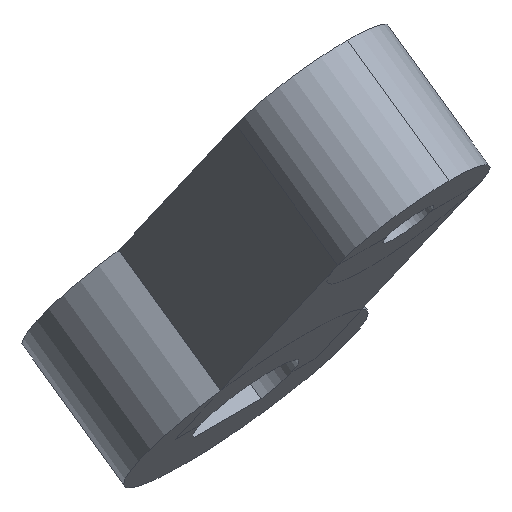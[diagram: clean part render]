
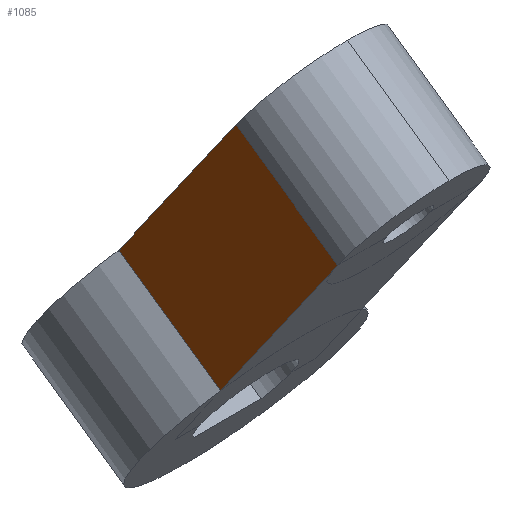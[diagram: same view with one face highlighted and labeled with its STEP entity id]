
A CAD part, isometric view. The second image highlights one B-rep face of the part: STEP entity #1085.
In plain terms, the highlighted planar face has unit normal (-1, 0, 0).
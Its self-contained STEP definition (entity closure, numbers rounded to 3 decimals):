
#24 = VERTEX_POINT('',#25);
#25 = CARTESIAN_POINT('',(411.4,-6.197,-1.61));
#77 = PLANE('',#78);
#78 = AXIS2_PLACEMENT_3D('',#79,#80,#81);
#79 = CARTESIAN_POINT('',(411.4,-4.915,-3.441));
#80 = DIRECTION('',(-0.,-0.819,-0.574));
#81 = DIRECTION('',(0.,0.574,-0.819));
#282 = CYLINDRICAL_SURFACE('',#283,3.);
#283 = AXIS2_PLACEMENT_3D('',#284,#285,#286);
#284 = CARTESIAN_POINT('',(413.4,-4.915,-3.441));
#285 = DIRECTION('',(-0.,-0.819,-0.574));
#286 = DIRECTION('',(-0.,-0.574,0.819));
#609 = EDGE_CURVE('',#24,#610,#612,.T.);
#610 = VERTEX_POINT('',#611);
#611 = CARTESIAN_POINT('',(411.4,-9.504,3.112));
#612 = SURFACE_CURVE('',#613,(#617,#624),.PCURVE_S1.);
#613 = LINE('',#614,#615);
#614 = CARTESIAN_POINT('',(411.4,-4.915,-3.441));
#615 = VECTOR('',#616,1.);
#616 = DIRECTION('',(-0.,-0.574,0.819));
#617 = PCURVE('',#77,#618);
#618 = DEFINITIONAL_REPRESENTATION('',(#619),#623);
#619 = LINE('',#620,#621);
#620 = CARTESIAN_POINT('',(-0.,0.));
#621 = VECTOR('',#622,1.);
#622 = DIRECTION('',(-1.,0.));
#623 = ( GEOMETRIC_REPRESENTATION_CONTEXT(2) 
PARAMETRIC_REPRESENTATION_CONTEXT() REPRESENTATION_CONTEXT('2D SPACE',''
  ) );
#624 = PCURVE('',#625,#630);
#625 = PLANE('',#626);
#626 = AXIS2_PLACEMENT_3D('',#627,#628,#629);
#627 = CARTESIAN_POINT('',(411.4,-4.915,-3.441));
#628 = DIRECTION('',(1.,-0.,-0.));
#629 = DIRECTION('',(0.,0.574,-0.819));
#630 = DEFINITIONAL_REPRESENTATION('',(#631),#635);
#631 = LINE('',#632,#633);
#632 = CARTESIAN_POINT('',(-0.,0.));
#633 = VECTOR('',#634,1.);
#634 = DIRECTION('',(-1.,0.));
#635 = ( GEOMETRIC_REPRESENTATION_CONTEXT(2) 
PARAMETRIC_REPRESENTATION_CONTEXT() REPRESENTATION_CONTEXT('2D SPACE',''
  ) );
#705 = VERTEX_POINT('',#706);
#706 = CARTESIAN_POINT('',(411.4,-9.065,-3.617));
#754 = EDGE_CURVE('',#24,#705,#755,.T.);
#755 = SURFACE_CURVE('',#756,(#760,#767),.PCURVE_S1.);
#756 = LINE('',#757,#758);
#757 = CARTESIAN_POINT('',(411.4,-6.197,-1.61));
#758 = VECTOR('',#759,1.);
#759 = DIRECTION('',(-0.,-0.819,-0.574));
#760 = PCURVE('',#282,#761);
#761 = DEFINITIONAL_REPRESENTATION('',(#762),#766);
#762 = LINE('',#763,#764);
#763 = CARTESIAN_POINT('',(-5.553,0.));
#764 = VECTOR('',#765,1.);
#765 = DIRECTION('',(-0.,1.));
#766 = ( GEOMETRIC_REPRESENTATION_CONTEXT(2) 
PARAMETRIC_REPRESENTATION_CONTEXT() REPRESENTATION_CONTEXT('2D SPACE',''
  ) );
#767 = PCURVE('',#625,#768);
#768 = DEFINITIONAL_REPRESENTATION('',(#769),#773);
#769 = LINE('',#770,#771);
#770 = CARTESIAN_POINT('',(-2.236,0.));
#771 = VECTOR('',#772,1.);
#772 = DIRECTION('',(-0.,-1.));
#773 = ( GEOMETRIC_REPRESENTATION_CONTEXT(2) 
PARAMETRIC_REPRESENTATION_CONTEXT() REPRESENTATION_CONTEXT('2D SPACE',''
  ) );
#895 = PLANE('',#896);
#896 = AXIS2_PLACEMENT_3D('',#897,#898,#899);
#897 = CARTESIAN_POINT('',(411.4,-7.782,-5.449));
#898 = DIRECTION('',(-0.,-0.819,-0.574));
#899 = DIRECTION('',(0.,0.574,-0.819));
#1085 = ADVANCED_FACE('',(#1086),#625,.F.);
#1086 = FACE_BOUND('',#1087,.T.);
#1087 = EDGE_LOOP('',(#1088,#1089,#1090,#1113));
#1088 = ORIENTED_EDGE('',*,*,#609,.F.);
#1089 = ORIENTED_EDGE('',*,*,#754,.T.);
#1090 = ORIENTED_EDGE('',*,*,#1091,.T.);
#1091 = EDGE_CURVE('',#705,#1092,#1094,.T.);
#1092 = VERTEX_POINT('',#1093);
#1093 = CARTESIAN_POINT('',(411.4,-12.371,1.104));
#1094 = SURFACE_CURVE('',#1095,(#1099,#1106),.PCURVE_S1.);
#1095 = LINE('',#1096,#1097);
#1096 = CARTESIAN_POINT('',(411.4,-7.782,-5.449));
#1097 = VECTOR('',#1098,1.);
#1098 = DIRECTION('',(-0.,-0.574,0.819));
#1099 = PCURVE('',#625,#1100);
#1100 = DEFINITIONAL_REPRESENTATION('',(#1101),#1105);
#1101 = LINE('',#1102,#1103);
#1102 = CARTESIAN_POINT('',(0.,-3.5));
#1103 = VECTOR('',#1104,1.);
#1104 = DIRECTION('',(-1.,0.));
#1105 = ( GEOMETRIC_REPRESENTATION_CONTEXT(2) 
PARAMETRIC_REPRESENTATION_CONTEXT() REPRESENTATION_CONTEXT('2D SPACE',''
  ) );
#1106 = PCURVE('',#895,#1107);
#1107 = DEFINITIONAL_REPRESENTATION('',(#1108),#1112);
#1108 = LINE('',#1109,#1110);
#1109 = CARTESIAN_POINT('',(-0.,0.));
#1110 = VECTOR('',#1111,1.);
#1111 = DIRECTION('',(-1.,0.));
#1112 = ( GEOMETRIC_REPRESENTATION_CONTEXT(2) 
PARAMETRIC_REPRESENTATION_CONTEXT() REPRESENTATION_CONTEXT('2D SPACE',''
  ) );
#1113 = ORIENTED_EDGE('',*,*,#1114,.F.);
#1114 = EDGE_CURVE('',#610,#1092,#1115,.T.);
#1115 = SURFACE_CURVE('',#1116,(#1120,#1127),.PCURVE_S1.);
#1116 = LINE('',#1117,#1118);
#1117 = CARTESIAN_POINT('',(411.4,-9.504,3.112));
#1118 = VECTOR('',#1119,1.);
#1119 = DIRECTION('',(-0.,-0.819,-0.574));
#1120 = PCURVE('',#625,#1121);
#1121 = DEFINITIONAL_REPRESENTATION('',(#1122),#1126);
#1122 = LINE('',#1123,#1124);
#1123 = CARTESIAN_POINT('',(-8.,0.));
#1124 = VECTOR('',#1125,1.);
#1125 = DIRECTION('',(-0.,-1.));
#1126 = ( GEOMETRIC_REPRESENTATION_CONTEXT(2) 
PARAMETRIC_REPRESENTATION_CONTEXT() REPRESENTATION_CONTEXT('2D SPACE',''
  ) );
#1127 = PCURVE('',#1128,#1133);
#1128 = CYLINDRICAL_SURFACE('',#1129,2.);
#1129 = AXIS2_PLACEMENT_3D('',#1130,#1131,#1132);
#1130 = CARTESIAN_POINT('',(413.4,-9.504,3.112));
#1131 = DIRECTION('',(-0.,-0.819,-0.574));
#1132 = DIRECTION('',(-0.,-0.574,0.819));
#1133 = DEFINITIONAL_REPRESENTATION('',(#1134),#1138);
#1134 = LINE('',#1135,#1136);
#1135 = CARTESIAN_POINT('',(-4.712,0.));
#1136 = VECTOR('',#1137,1.);
#1137 = DIRECTION('',(-0.,1.));
#1138 = ( GEOMETRIC_REPRESENTATION_CONTEXT(2) 
PARAMETRIC_REPRESENTATION_CONTEXT() REPRESENTATION_CONTEXT('2D SPACE',''
  ) );
